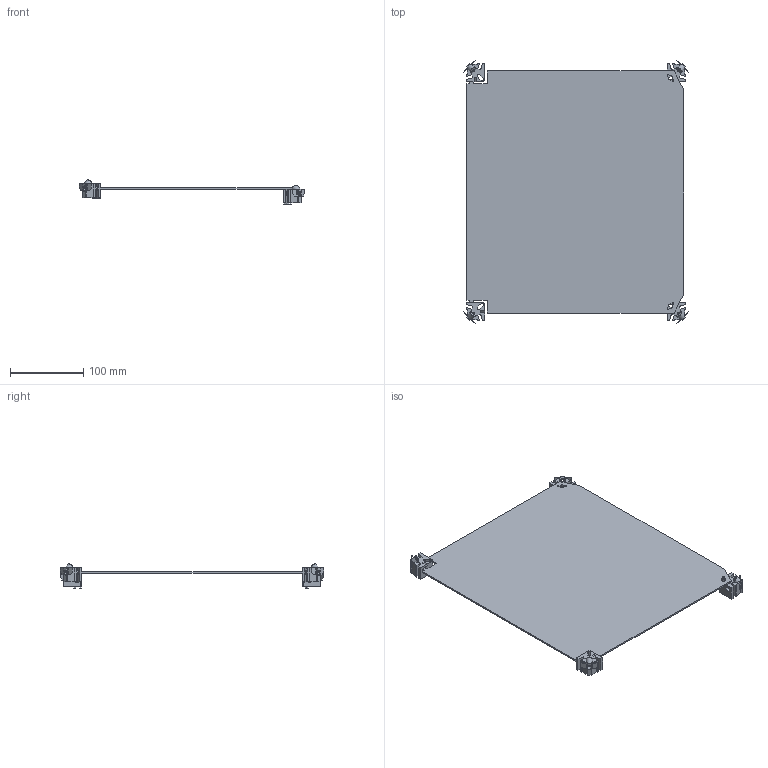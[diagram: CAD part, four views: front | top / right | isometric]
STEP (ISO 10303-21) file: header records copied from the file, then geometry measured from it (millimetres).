
FILE_DESCRIPTION (( 'STEP AP203' ), '1' );
FILE_NAME ('a1412pswpnl.STEP', '2011-02-22T20:38:41', ( 'Hoffman User' ), ( 'Hoffman Enclosures' ), 'SwSTEP 2.0', 'SolidWorks 2009', '' );
FILE_SCHEMA (( 'CONFIG_CONTROL_DESIGN' ));
Length unit declared in the file: inch
Products named in the file (4): 87949082_BBD; 87925296_87925296; a1412pswpnl; 87925729_As Drawn
Assembly tree (6 placements, depth 3):
  a1412pswpnl
    87949082_BBD
      87925729_As Drawn  x4
    87925296_87925296
Bounding box: 307.21 x 358.75 x 33.04 mm (x, y, z)
Volume: 223629 mm3; surface area: 219650.5 mm2
Topology: 5 solids, 5 shells, 644 faces, 1878 edges, 1240 vertices
Faces by surface type: plane 320, cylinder 292, bspline 24, cone 8
Entity records: 8898 total; most frequent: CARTESIAN_POINT 3659, ORIENTED_EDGE 1110, DIRECTION 883, EDGE_CURVE 555, VERTEX_POINT 367, LINE 347, VECTOR 347, AXIS2_PLACEMENT_3D 268
